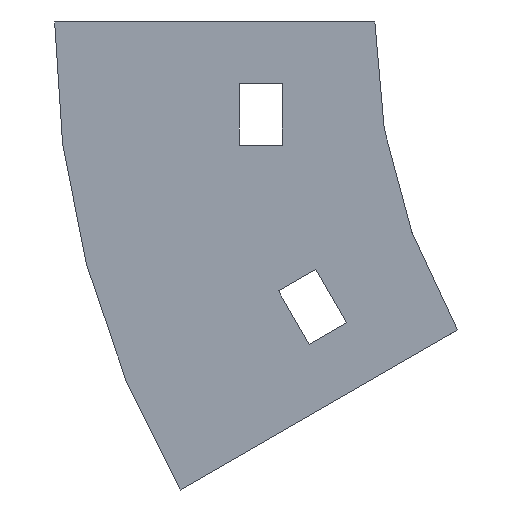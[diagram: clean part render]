
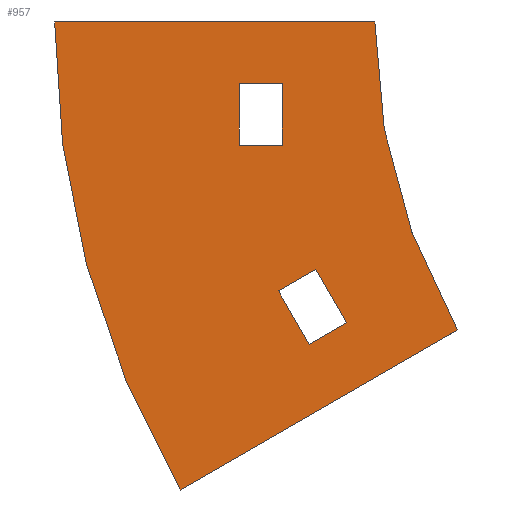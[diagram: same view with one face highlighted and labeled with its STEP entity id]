
A CAD part, left-side view. The second image highlights one B-rep face of the part: STEP entity #957.
In plain terms, the highlighted planar face has unit normal (-1, 0, 0).
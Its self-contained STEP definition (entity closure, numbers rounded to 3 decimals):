
#4 = DIRECTION ( 'NONE',  ( -1., 0., 0. ) ) ;
#30 = ORIENTED_EDGE ( 'NONE', *, *, #595, .T. ) ;
#53 = DIRECTION ( 'NONE',  ( 0., 0.866, -0.5 ) ) ;
#58 = ORIENTED_EDGE ( 'NONE', *, *, #1076, .F. ) ;
#61 = VERTEX_POINT ( 'NONE', #134 ) ;
#79 = LINE ( 'NONE', #428, #629 ) ;
#80 = VERTEX_POINT ( 'NONE', #601 ) ;
#97 = FACE_BOUND ( 'NONE', #281, .T. ) ;
#111 = LINE ( 'NONE', #460, #262 ) ;
#127 = DIRECTION ( 'NONE',  ( 0., -1., 0. ) ) ;
#134 = CARTESIAN_POINT ( 'NONE',  ( -102., 22., -10. ) ) ;
#135 = VECTOR ( 'NONE', #764, 1000. ) ;
#164 = VERTEX_POINT ( 'NONE', #1142 ) ;
#171 = ORIENTED_EDGE ( 'NONE', *, *, #563, .F. ) ;
#193 = PLANE ( 'NONE',  #1036 ) ;
#198 = CARTESIAN_POINT ( 'NONE',  ( -102., 0., 0. ) ) ;
#207 = VERTEX_POINT ( 'NONE', #703 ) ;
#214 = ORIENTED_EDGE ( 'NONE', *, *, #627, .F. ) ;
#218 = DIRECTION ( 'NONE',  ( 0., 0., -1. ) ) ;
#223 = LINE ( 'NONE', #231, #690 ) ;
#227 = EDGE_CURVE ( 'NONE', #207, #892, #79, .T. ) ;
#231 = CARTESIAN_POINT ( 'NONE',  ( -102., 15., -10. ) ) ;
#258 = DIRECTION ( 'NONE',  ( 0., 0., 1. ) ) ;
#262 = VECTOR ( 'NONE', #1010, 1000. ) ;
#264 = DIRECTION ( 'NONE',  ( 0., 0., 1. ) ) ;
#267 = EDGE_LOOP ( 'NONE', ( #967, #923, #171, #705 ) ) ;
#281 = EDGE_LOOP ( 'NONE', ( #30, #463, #978, #875 ) ) ;
#288 = VERTEX_POINT ( 'NONE', #487 ) ;
#314 = VERTEX_POINT ( 'NONE', #926 ) ;
#317 = DIRECTION ( 'NONE',  ( 0., -0.866, 0.5 ) ) ;
#335 = EDGE_CURVE ( 'NONE', #80, #164, #223, .T. ) ;
#337 = VECTOR ( 'NONE', #127, 1000. ) ;
#344 = CARTESIAN_POINT ( 'NONE',  ( -102., 10.655, -52.34 ) ) ;
#368 = ORIENTED_EDGE ( 'NONE', *, *, #415, .F. ) ;
#381 = CARTESIAN_POINT ( 'NONE',  ( -102., 4.593, -48.84 ) ) ;
#409 = CARTESIAN_POINT ( 'NONE',  ( -102., 22., -20. ) ) ;
#415 = EDGE_CURVE ( 'NONE', #815, #998, #695, .T. ) ;
#419 = EDGE_CURVE ( 'NONE', #570, #61, #420, .T. ) ;
#420 = LINE ( 'NONE', #1140, #135 ) ;
#428 = CARTESIAN_POINT ( 'NONE',  ( -102., -13.397, -50. ) ) ;
#441 = FACE_OUTER_BOUND ( 'NONE', #267, .T. ) ;
#452 = AXIS2_PLACEMENT_3D ( 'NONE', #1073, #4, #264 ) ;
#460 = CARTESIAN_POINT ( 'NONE',  ( -102., 22., -20. ) ) ;
#463 = ORIENTED_EDGE ( 'NONE', *, *, #335, .T. ) ;
#470 = DIRECTION ( 'NONE',  ( 0., 0.5, 0.866 ) ) ;
#487 = CARTESIAN_POINT ( 'NONE',  ( -102., 9.593, -40.179 ) ) ;
#506 = CARTESIAN_POINT ( 'NONE',  ( -102., 15.655, -43.679 ) ) ;
#519 = EDGE_LOOP ( 'NONE', ( #58, #214, #368, #1058 ) ) ;
#560 = VECTOR ( 'NONE', #689, 1000. ) ;
#563 = EDGE_CURVE ( 'NONE', #892, #314, #729, .T. ) ;
#570 = VERTEX_POINT ( 'NONE', #409 ) ;
#571 = LINE ( 'NONE', #925, #337 ) ;
#588 = DIRECTION ( 'NONE',  ( 1., 0., 0. ) ) ;
#595 = EDGE_CURVE ( 'NONE', #61, #80, #571, .T. ) ;
#596 = DIRECTION ( 'NONE',  ( 0., 0., 1. ) ) ;
#601 = CARTESIAN_POINT ( 'NONE',  ( -102., 15., -10. ) ) ;
#627 = EDGE_CURVE ( 'NONE', #998, #1138, #1012, .T. ) ;
#628 = VERTEX_POINT ( 'NONE', #198 ) ;
#629 = VECTOR ( 'NONE', #954, 1000. ) ;
#640 = CARTESIAN_POINT ( 'NONE',  ( -102., 10.655, -52.34 ) ) ;
#671 = LINE ( 'NONE', #677, #828 ) ;
#677 = CARTESIAN_POINT ( 'NONE',  ( -102., 15.655, -43.679 ) ) ;
#689 = DIRECTION ( 'NONE',  ( 0., -0.5, -0.866 ) ) ;
#690 = VECTOR ( 'NONE', #218, 1000. ) ;
#695 = LINE ( 'NONE', #344, #560 ) ;
#703 = CARTESIAN_POINT ( 'NONE',  ( -102., -13.397, -50. ) ) ;
#705 = ORIENTED_EDGE ( 'NONE', *, *, #227, .F. ) ;
#729 = CIRCLE ( 'NONE', #1066, 152. ) ;
#731 = CARTESIAN_POINT ( 'NONE',  ( -102., 10.655, -52.34 ) ) ;
#739 = VECTOR ( 'NONE', #470, 1000. ) ;
#748 = CARTESIAN_POINT ( 'NONE',  ( -102., 4.593, -48.84 ) ) ;
#751 = EDGE_CURVE ( 'NONE', #314, #628, #1051, .T. ) ;
#756 = EDGE_CURVE ( 'NONE', #288, #815, #671, .T. ) ;
#764 = DIRECTION ( 'NONE',  ( 0., 0., 1. ) ) ;
#780 = DIRECTION ( 'NONE',  ( 0., -1., 0. ) ) ;
#797 = CARTESIAN_POINT ( 'NONE',  ( -102., 31.636, -76. ) ) ;
#811 = CARTESIAN_POINT ( 'NONE',  ( -102., -100., 0. ) ) ;
#815 = VERTEX_POINT ( 'NONE', #506 ) ;
#828 = VECTOR ( 'NONE', #53, 1000. ) ;
#846 = VECTOR ( 'NONE', #780, 1000. ) ;
#875 = ORIENTED_EDGE ( 'NONE', *, *, #419, .T. ) ;
#879 = EDGE_CURVE ( 'NONE', #628, #207, #1149, .T. ) ;
#892 = VERTEX_POINT ( 'NONE', #797 ) ;
#912 = LINE ( 'NONE', #748, #739 ) ;
#923 = ORIENTED_EDGE ( 'NONE', *, *, #751, .F. ) ;
#925 = CARTESIAN_POINT ( 'NONE',  ( -102., 22., -10. ) ) ;
#926 = CARTESIAN_POINT ( 'NONE',  ( -102., 52., 0. ) ) ;
#954 = DIRECTION ( 'NONE',  ( 0., 0.866, -0.5 ) ) ;
#957 = ADVANCED_FACE ( 'NONE', ( #97, #441, #980 ), #193, .T. ) ;
#967 = ORIENTED_EDGE ( 'NONE', *, *, #879, .F. ) ;
#978 = ORIENTED_EDGE ( 'NONE', *, *, #1013, .T. ) ;
#980 = FACE_BOUND ( 'NONE', #519, .T. ) ;
#998 = VERTEX_POINT ( 'NONE', #640 ) ;
#1010 = DIRECTION ( 'NONE',  ( 0., 1., 0. ) ) ;
#1012 = LINE ( 'NONE', #731, #1025 ) ;
#1013 = EDGE_CURVE ( 'NONE', #164, #570, #111, .T. ) ;
#1025 = VECTOR ( 'NONE', #317, 1000. ) ;
#1028 = CARTESIAN_POINT ( 'NONE',  ( -102., 52., 0. ) ) ;
#1036 = AXIS2_PLACEMENT_3D ( 'NONE', #811, #1055, #258 ) ;
#1037 = CARTESIAN_POINT ( 'NONE',  ( -102., -100., 0. ) ) ;
#1051 = LINE ( 'NONE', #1028, #846 ) ;
#1055 = DIRECTION ( 'NONE',  ( -1., 0., 0. ) ) ;
#1058 = ORIENTED_EDGE ( 'NONE', *, *, #756, .F. ) ;
#1066 = AXIS2_PLACEMENT_3D ( 'NONE', #1037, #588, #596 ) ;
#1073 = CARTESIAN_POINT ( 'NONE',  ( -102., -100., 0. ) ) ;
#1076 = EDGE_CURVE ( 'NONE', #1138, #288, #912, .T. ) ;
#1138 = VERTEX_POINT ( 'NONE', #381 ) ;
#1140 = CARTESIAN_POINT ( 'NONE',  ( -102., 22., -10. ) ) ;
#1142 = CARTESIAN_POINT ( 'NONE',  ( -102., 15., -20. ) ) ;
#1149 = CIRCLE ( 'NONE', #452, 100. ) ;
